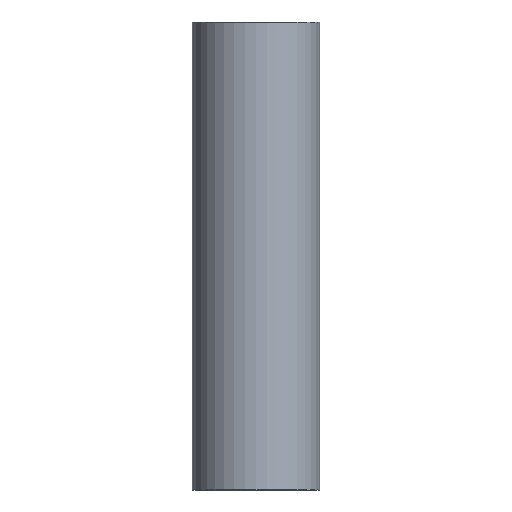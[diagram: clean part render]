
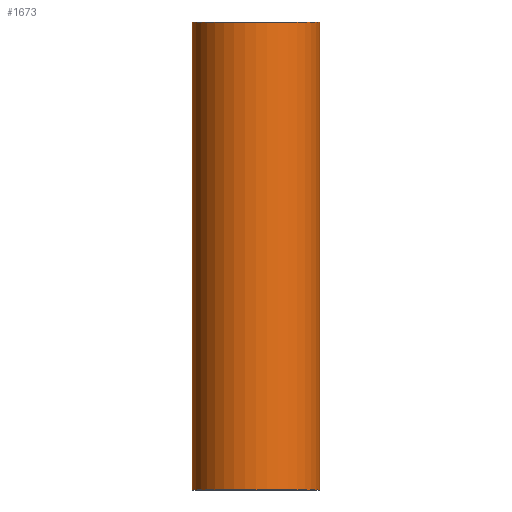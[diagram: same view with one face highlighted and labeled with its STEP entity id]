
A CAD part, front view. The second image highlights one B-rep face of the part: STEP entity #1673.
In plain terms, the highlighted cylindrical face has radius 55.245 mm (diameter 110.49 mm), a partial arc.
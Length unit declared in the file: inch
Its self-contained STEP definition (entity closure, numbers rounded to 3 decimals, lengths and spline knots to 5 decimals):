
#47 = CARTESIAN_POINT ( 'NONE',  ( 2.175, 0., 8. ) ) ;
#120 = VERTEX_POINT ( 'NONE', #547 ) ;
#146 = AXIS2_PLACEMENT_3D ( 'NONE', #855, #1388, #2104 ) ;
#169 = CARTESIAN_POINT ( 'NONE',  ( 0., 0., 7.985 ) ) ;
#178 = LINE ( 'NONE', #2177, #1748 ) ;
#234 = DIRECTION ( 'NONE',  ( 0., 0., -1. ) ) ;
#412 = CARTESIAN_POINT ( 'NONE',  ( 0., 0., 8. ) ) ;
#434 = EDGE_CURVE ( 'NONE', #120, #1041, #856, .T. ) ;
#545 = VERTEX_POINT ( 'NONE', #1856 ) ;
#547 = CARTESIAN_POINT ( 'NONE',  ( 2.175, 0., 7.985 ) ) ;
#560 = VECTOR ( 'NONE', #1597, 39.37008 ) ;
#623 = EDGE_LOOP ( 'NONE', ( #2111, #1847, #914, #1020 ) ) ;
#748 = EDGE_CURVE ( 'NONE', #1928, #545, #1417, .T. ) ;
#855 = CARTESIAN_POINT ( 'NONE',  ( 0., 0., -7.985 ) ) ;
#856 = CIRCLE ( 'NONE', #1706, 2.175 ) ;
#884 = DIRECTION ( 'NONE',  ( 0., 0., -1. ) ) ;
#890 = LINE ( 'NONE', #47, #560 ) ;
#914 = ORIENTED_EDGE ( 'NONE', *, *, #1203, .T. ) ;
#1020 = ORIENTED_EDGE ( 'NONE', *, *, #748, .T. ) ;
#1026 = CARTESIAN_POINT ( 'NONE',  ( -2.175, 0., -7.985 ) ) ;
#1041 = VERTEX_POINT ( 'NONE', #2196 ) ;
#1125 = EDGE_CURVE ( 'NONE', #120, #545, #890, .T. ) ;
#1203 = EDGE_CURVE ( 'NONE', #1041, #1928, #178, .T. ) ;
#1274 = AXIS2_PLACEMENT_3D ( 'NONE', #412, #234, #2052 ) ;
#1388 = DIRECTION ( 'NONE',  ( 0., 0., 1. ) ) ;
#1417 = CIRCLE ( 'NONE', #146, 2.175 ) ;
#1514 = FACE_OUTER_BOUND ( 'NONE', #623, .T. ) ;
#1597 = DIRECTION ( 'NONE',  ( 0., 0., -1. ) ) ;
#1673 = ADVANCED_FACE ( 'NONE', ( #1514 ), #2216, .T. ) ;
#1706 = AXIS2_PLACEMENT_3D ( 'NONE', #169, #884, #2306 ) ;
#1748 = VECTOR ( 'NONE', #1965, 39.37008 ) ;
#1847 = ORIENTED_EDGE ( 'NONE', *, *, #434, .T. ) ;
#1856 = CARTESIAN_POINT ( 'NONE',  ( 2.175, 0., -7.985 ) ) ;
#1928 = VERTEX_POINT ( 'NONE', #1026 ) ;
#1965 = DIRECTION ( 'NONE',  ( 0., 0., -1. ) ) ;
#2052 = DIRECTION ( 'NONE',  ( -1., 0., 0. ) ) ;
#2104 = DIRECTION ( 'NONE',  ( 1., 0., 0. ) ) ;
#2111 = ORIENTED_EDGE ( 'NONE', *, *, #1125, .F. ) ;
#2177 = CARTESIAN_POINT ( 'NONE',  ( -2.175, 0., 8. ) ) ;
#2196 = CARTESIAN_POINT ( 'NONE',  ( -2.175, 0., 7.985 ) ) ;
#2216 = CYLINDRICAL_SURFACE ( 'NONE', #1274, 2.175 ) ;
#2306 = DIRECTION ( 'NONE',  ( 1., 0., 0. ) ) ;
